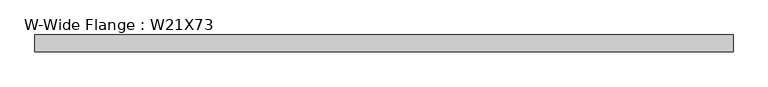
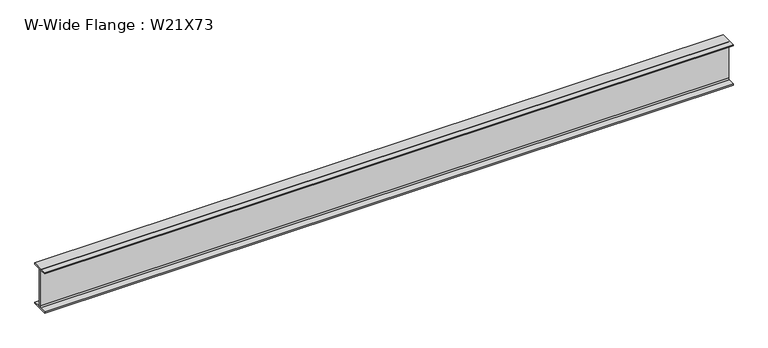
"""IFC4 building model written with IfcOpenShell, lengths in millimetres: beam geometry, W-Wide Flange : W21X73."""

import ifcopenshell
import ifcopenshell.guid

model = None  # the IFC model being written
_history = None  # IfcOwnerHistory: only IFC2X3 demands one
_inside = {}  # id of a spatial element -> (the spatial element, [elements in it])
_under = {}  # id of a project, library or spatial element -> (it, [spatial elements below it])
_declared = {}  # id of a project -> (the project, [libraries it declares])
_typed = {}  # id of a type object -> (the type object, [elements of that type])
_made_of = {}  # id of a material, layer set ... -> (it, [elements and type objects made of it])


def new_model(schema):
    """Start an empty IFC model of exactly this schema.

    Asked for "IFC4X3", IfcOpenShell would pick the latest addendum, in which some entities
    have other attributes; the version numbers below select the first issue.
    IFC2X3 requires an IfcOwnerHistory on every rooted entity: one is made here for all.
    """
    global model, _history
    if schema == "IFC4X3":
        model = ifcopenshell.file(schema_version=(4, 3, 0, 0))
    else:
        model = ifcopenshell.file(schema=schema)
    _inside.clear()
    _under.clear()
    _declared.clear()
    _typed.clear()
    _made_of.clear()
    _history = None
    if model.schema == "IFC2X3":
        org = make("IfcOrganization", Name="unknown")
        user = make(
            "IfcPersonAndOrganization",
            ThePerson=make("IfcPerson", FamilyName="unknown"),
            TheOrganization=org,
        )
        app = make(
            "IfcApplication",
            ApplicationDeveloper=org,
            Version="unknown",
            ApplicationFullName="unknown",
            ApplicationIdentifier="unknown",
        )
        _history = make(
            "IfcOwnerHistory",
            OwningUser=user,
            OwningApplication=app,
            ChangeAction="ADDED",
            CreationDate=0,
        )
    return model


def make(cls, **values):
    """One entity of the class cls with the attributes given. An attribute that is None is left unset."""
    return model.create_entity(
        cls, **{name: value for name, value in values.items() if value is not None}
    )


def rooted(cls, **values):
    """An entity with a GlobalId (a new one), such as an element, a storey or a relation."""
    return make(cls, GlobalId=ifcopenshell.guid.new(), OwnerHistory=_history, **values)


def si_unit(unit_type, name, prefix=None):
    """IfcSIUnit, for example si_unit("LENGTHUNIT", "METRE", prefix="MILLI")."""
    return make("IfcSIUnit", UnitType=unit_type, Prefix=prefix, Name=name)


def assignment(units):
    """IfcUnitAssignment: the units of a project."""
    return None if units is None else make("IfcUnitAssignment", Units=units)


def point(xyz):
    """IfcCartesianPoint."""
    return None if xyz is None else make("IfcCartesianPoint", Coordinates=xyz)


def direction(xyz):
    """IfcDirection."""
    return None if xyz is None else make("IfcDirection", DirectionRatios=xyz)


def frame(location, z_axis=None, x_axis=None):
    """IfcAxis2Placement3D, a coordinate frame: its origin and axes. An axis left out is left unset."""
    return make(
        "IfcAxis2Placement3D",
        Location=point(location),
        Axis=direction(z_axis),
        RefDirection=direction(x_axis),
    )


def frame_2d(location, x_axis=None):
    """IfcAxis2Placement2D, a coordinate frame in the plane: its origin and x axis."""
    return make(
        "IfcAxis2Placement2D", Location=point(location), RefDirection=direction(x_axis)
    )


def origin():
    """The frame at (0, 0, 0) with its axes left unset."""
    return frame((0.0, 0.0, 0.0))


def place(relative_to, where):
    """IfcLocalPlacement: puts the frame where relative to a parent placement (None: the world)."""
    return make(
        "IfcLocalPlacement", PlacementRelTo=relative_to, RelativePlacement=where
    )


def context(
    kind, dimensions, precision=None, world=None, true_north=None, identifier=None
):
    """IfcGeometricRepresentationContext, for example the 3D "Model" context."""
    return make(
        "IfcGeometricRepresentationContext",
        ContextIdentifier=identifier,
        ContextType=kind,
        CoordinateSpaceDimension=dimensions,
        Precision=precision,
        WorldCoordinateSystem=world,
        TrueNorth=true_north,
    )


def project(units=None, contexts=None):
    """IfcProject with its units and contexts."""
    return rooted(
        "IfcProject",
        Name="project",
        RepresentationContexts=contexts,
        UnitsInContext=assignment(units),
    )


def spatial(cls, under=None, at=None, **own):
    """A site, building, storey or space (cls), placed at a placement, below another one or the project."""
    s = rooted(cls, ObjectPlacement=at, **own)
    if under is not None:
        _under.setdefault(under.id(), (under, []))[1].append(s)
    return s


def polyline(points):
    """IfcPolyline through the points."""
    return make("IfcPolyline", Points=[point(p) for p in points])


def circle_curve(where, radius):
    """IfcCircle in the frame where."""
    return make("IfcCircle", Position=where, Radius=radius)


def trimmed(basis, trim1, trim2, sense, master):
    """IfcTrimmedCurve: the piece of a basis curve between two trims."""
    return make(
        "IfcTrimmedCurve",
        BasisCurve=basis,
        Trim1=trim1,
        Trim2=trim2,
        SenseAgreement=sense,
        MasterRepresentation=master,
    )


def segment(curve, same_sense, transition):
    """IfcCompositeCurveSegment."""
    return make(
        "IfcCompositeCurveSegment",
        Transition=transition,
        SameSense=same_sense,
        ParentCurve=curve,
    )


def composite_curve(segments, self_intersect=None):
    """IfcCompositeCurve: segments joined end to end."""
    return make("IfcCompositeCurve", Segments=segments, SelfIntersect=self_intersect)


def outline(outer, holes=None, kind="AREA"):
    """IfcArbitraryClosedProfileDef: a profile drawn as a closed curve; with holes, ...WithVoids."""
    if holes is None:
        return make("IfcArbitraryClosedProfileDef", ProfileType=kind, OuterCurve=outer)
    return make(
        "IfcArbitraryProfileDefWithVoids",
        ProfileType=kind,
        OuterCurve=outer,
        InnerCurves=holes,
    )


def extrude(swept, where, along, depth):
    """IfcExtrudedAreaSolid: the profile swept, set in the frame where, extruded along a direction by depth."""
    return make(
        "IfcExtrudedAreaSolid",
        SweptArea=swept,
        Position=where,
        ExtrudedDirection=direction(along),
        Depth=depth,
    )


def shape(context_of_items, identifier, shape_type, items):
    """IfcShapeRepresentation: the items that make up one representation, for example the "Body"."""
    return make(
        "IfcShapeRepresentation",
        ContextOfItems=context_of_items,
        RepresentationIdentifier=identifier,
        RepresentationType=shape_type,
        Items=items,
    )


def source(mapping_origin, context_of_items, identifier, shape_type, items):
    """IfcRepresentationMap: a shape defined once, which mapped items show again and again."""
    return make(
        "IfcRepresentationMap",
        MappingOrigin=mapping_origin,
        MappedRepresentation=shape(context_of_items, identifier, shape_type, items),
    )


def transform(
    local_origin,
    x_axis=None,
    y_axis=None,
    z_axis=None,
    scale=None,
    scale2=None,
    scale3=None,
    uniform=True,
):
    """IfcCartesianTransformationOperator3D, or its non-uniform kind. x_axis, y_axis, z_axis: its Axis1, 2, 3."""
    if uniform:
        return make(
            "IfcCartesianTransformationOperator3D",
            Axis1=direction(x_axis),
            Axis2=direction(y_axis),
            LocalOrigin=point(local_origin),
            Scale=scale,
            Axis3=direction(z_axis),
        )
    return make(
        "IfcCartesianTransformationOperator3DnonUniform",
        Axis1=direction(x_axis),
        Axis2=direction(y_axis),
        LocalOrigin=point(local_origin),
        Scale=scale,
        Axis3=direction(z_axis),
        Scale2=scale2,
        Scale3=scale3,
    )


def mapped(mapping_source, mapping_target):
    """IfcMappedItem: shows the shape of a source again, moved by a transform."""
    return make(
        "IfcMappedItem", MappingSource=mapping_source, MappingTarget=mapping_target
    )


def made_of(thing, what):
    """Note that an element or type object is made of a material, layer set ...; save() writes the relation."""
    if what is not None:
        _made_of.setdefault(what.id(), (what, []))[1].append(thing)
    return thing


def element(
    cls,
    number,
    at=None,
    inside=None,
    cuts=None,
    type_object=None,
    material=None,
    context=None,
    identifier="Body",
    shape_type=None,
    held_by="IfcProductDefinitionShape",
    body=None,
    shapes=None,
    **own,
):
    """One element of the class cls, such as IfcWall. Its Tag is "e" and its number.

    at: its placement. inside: the storey or other place that contains it. cuts: it is an
    opening in that element (IfcRelVoidsElement). A single representation is given by context,
    identifier, shape_type and body (its items); several are given by shapes. held_by: the class
    of the entity that holds the representations. save() writes the other relations.
    """
    e = rooted(cls, Tag="e%d" % number, ObjectPlacement=at, **own)
    if body is not None:
        shapes = [shape(context, identifier, shape_type, body)]
    if shapes is not None:
        e.Representation = make(held_by, Representations=shapes)
    if inside is not None:
        _inside.setdefault(inside.id(), (inside, []))[1].append(e)
    if cuts is not None:
        rooted(
            "IfcRelVoidsElement", RelatingBuildingElement=cuts, RelatedOpeningElement=e
        )
    if type_object is not None:
        _typed.setdefault(type_object.id(), (type_object, []))[1].append(e)
    return made_of(e, material)


def aggregate(whole, parts):
    """IfcRelAggregates: a whole, such as a stair, and the parts it consists of."""
    return rooted("IfcRelAggregates", RelatingObject=whole, RelatedObjects=parts)


def save(model, path):
    """Write the relations noted so far, then the file.

    IfcRelAggregates (storeys below a building ...), IfcRelContainedInSpatialStructure (elements
    in a storey), IfcRelDefinesByType, IfcRelAssociatesMaterial and IfcRelDeclares: one each for
    every whole, place, type object, material and project.
    """
    for whole, parts in _under.values():
        aggregate(whole, parts)
    for where, things in _inside.values():
        rooted(
            "IfcRelContainedInSpatialStructure",
            RelatedElements=things,
            RelatingStructure=where,
        )
    for kind, things in _typed.values():
        rooted("IfcRelDefinesByType", RelatedObjects=things, RelatingType=kind)
    for what, things in _made_of.values():
        rooted("IfcRelAssociatesMaterial", RelatedObjects=things, RelatingMaterial=what)
    for by, libraries in _declared.values():
        rooted("IfcRelDeclares", RelatingContext=by, RelatedDefinitions=libraries)
    model.write(path)


def w_wide_flange_w21x73_23efea6e(model_context):
    return source(origin(), model_context, "Body", "SweptSolid", [
        extrude(outline(composite_curve([segment(polyline([(105.41, -250.444), (105.41, -269.24), (-105.41, -269.24), (-105.41, -250.444), (-23.495, -250.444)]), True, "CONTINUOUS"), segment(trimmed(circle_curve(frame_2d((-23.495, -232.7275)), 17.7165), [point((-23.495, -250.444))], [point((-5.7785, -232.7275))], True, "CARTESIAN"), True, "CONTINUOUS"), segment(polyline([(-5.7785, -232.7275), (-5.7785, 232.7275)]), True, "CONTINUOUS"), segment(trimmed(circle_curve(frame_2d((-23.495, 232.7275)), 17.7165), [point((-5.7785, 232.7275))], [point((-23.495, 250.444))], True, "CARTESIAN"), True, "CONTINUOUS"), segment(polyline([(-23.495, 250.444), (-105.41, 250.444), (-105.41, 269.24), (105.41, 269.24), (105.41, 250.444), (23.495, 250.444)]), True, "CONTINUOUS"), segment(trimmed(circle_curve(frame_2d((23.495, 232.7275)), 17.7165), [point((23.495, 250.444))], [point((5.7785, 232.7275))], True, "CARTESIAN"), True, "CONTINUOUS"), segment(polyline([(5.7785, 232.7275), (5.7785, -232.7275)]), True, "CONTINUOUS"), segment(trimmed(circle_curve(frame_2d((23.495, -232.7275)), 17.7165), [point((5.7785, -232.7275))], [point((23.495, -250.444))], True, "CARTESIAN"), True, "CONTINUOUS"), segment(polyline([(23.495, -250.444), (105.41, -250.444)]), True, "CONTINUOUS")], self_intersect=False)), frame((-4324.35, 0.0, 0.0), z_axis=(1.0, 0.0, 0.0), x_axis=(0.0, 1.0, 0.0)), (0.0, 0.0, 1.0), 8648.7),
    ])


if __name__ == "__main__":
    model = new_model("IFC4")
    model_context = context("Model", 3, world=origin())
    ifc_project = project(units=[si_unit("LENGTHUNIT", "METRE", prefix="MILLI")], contexts=[model_context])
    site = spatial("IfcSite", under=ifc_project)
    building = spatial("IfcBuilding", under=site)
    placement = place(None, origin())
    w_wide_flange_w21x73_shape = w_wide_flange_w21x73_23efea6e(model_context)
    element("IfcBeam", 1, ObjectType="W-Wide Flange : W21X73", at=placement, inside=building, context=model_context, shape_type="MappedRepresentation", body=[
        mapped(w_wide_flange_w21x73_shape, transform((0.0, 0.0, 0.0), x_axis=(1.0, 0.0, 0.0), y_axis=(0.0, 1.0, 0.0), z_axis=(0.0, 0.0, 1.0))),
    ])
    save(model, "model.ifc")
